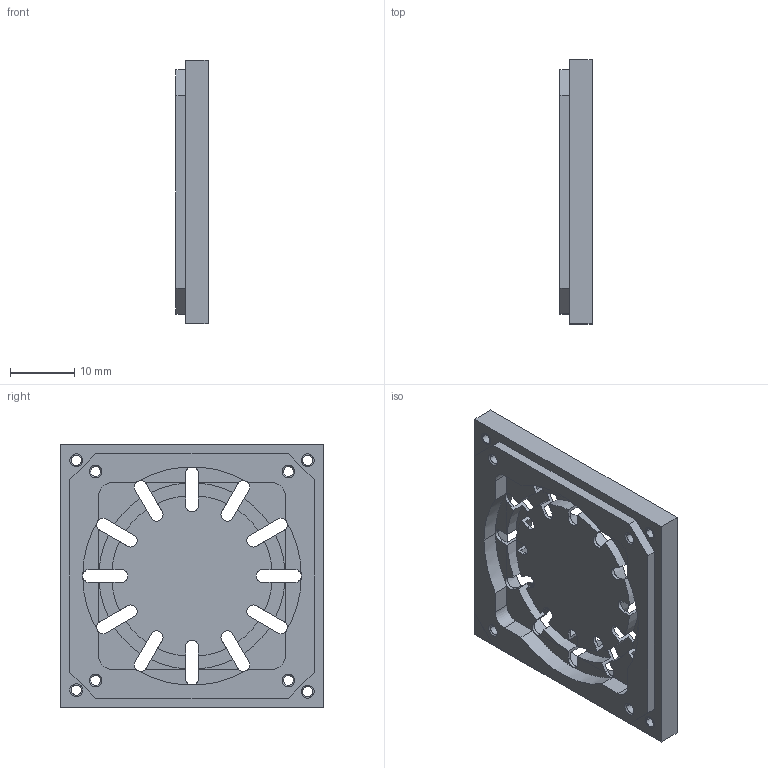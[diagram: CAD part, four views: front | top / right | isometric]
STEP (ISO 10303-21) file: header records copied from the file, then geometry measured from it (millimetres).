
FILE_DESCRIPTION(/* description */ ('(C) Elphel, Inc. 2013. Licensed under CERN OHL v.1.1 or later, see http://ohwr.org/cernohl'),/* implementation_level */ '2;1');
FILE_NAME(/* name */ '0353-19-747.stp',/* time_stamp */ '2013-04-24T01:43:51-06:00',/* author */ (''),/* organization */ ('Elphel, Inc'),/* preprocessor_version */ 'ST-DEVELOPER v14',/* originating_system */ 'VariCAD 2013-2.04; kernel version (20130303)',/* authorisation */ '');
FILE_SCHEMA (('CONFIG_CONTROL_DESIGN'));
Length unit declared in the file: millimetre
Products named in the file (2): 0353-19-747
Assembly tree (1 placements, depth 2):
  0353-19-747
    0353-19-747
Bounding box: 5 x 41 x 41 mm (x, y, z)
Volume: 4370.3 mm3; surface area: 5209.5 mm2
Topology: 1 solids, 1 shells, 219 faces, 714 edges, 464 vertices
Faces by surface type: cylinder 102, plane 101, cone 16
Entity records: 7732 total; most frequent: DIRECTION 1364, ORIENTED_EDGE 1340, CARTESIAN_POINT 1335, EDGE_CURVE 670, AXIS2_PLACEMENT_3D 473, VERTEX_POINT 444, LINE 418, VECTOR 418
